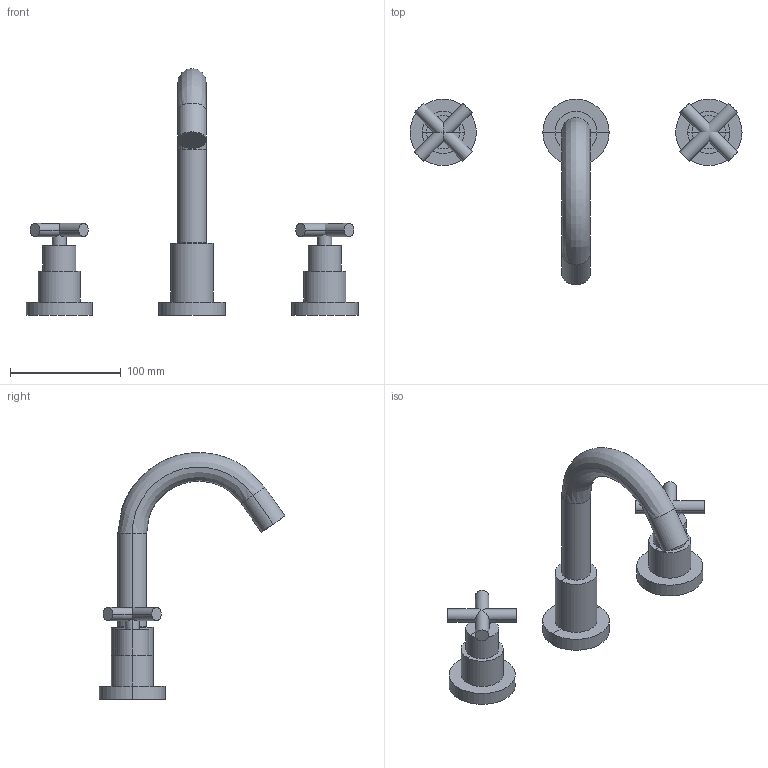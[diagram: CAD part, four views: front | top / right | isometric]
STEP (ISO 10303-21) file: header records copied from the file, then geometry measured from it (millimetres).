
FILE_DESCRIPTION(('FreeCAD Model'),'2;1');
FILE_NAME('Open CASCADE Shape Model','2024-08-09T22:57:41',('Author'),( ''),'Open CASCADE STEP processor 7.6','FreeCAD','Unknown');
FILE_SCHEMA(('AUTOMOTIVE_DESIGN { 1 0 10303 214 1 1 1 1 }'));
Length unit declared in the file: millimetre
Products named in the file (7): TopLevelAssembly; Wyciąganie001; Połączona geometria bryłowa; Obrót profilu; Wyciąganie002; Wyciąganie003; Połączona geometria bryłowa001
Assembly tree (6 placements, depth 2):
  TopLevelAssembly
    Wyciąganie001
    Połączona geometria bryłowa
    Obrót profilu
    Wyciąganie002
    Wyciąganie003
    Połączona geometria bryłowa001
Bounding box: 300 x 168.04 x 223 mm (x, y, z)
Volume: 430110.1 mm3; surface area: 76013.3 mm2
Topology: 6 solids, 6 shells, 72 faces, 131 edges, 73 vertices
Faces by surface type: cylinder 38, plane 32, bspline 2
Entity records: 2017 total; most frequent: CARTESIAN_POINT 399, DIRECTION 357, ORIENTED_EDGE 262, AXIS2_PLACEMENT_3D 153, EDGE_CURVE 131, FACE_BOUND 74, EDGE_LOOP 74, VERTEX_POINT 73
